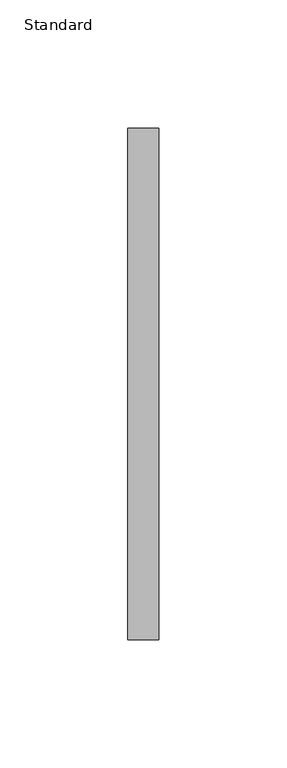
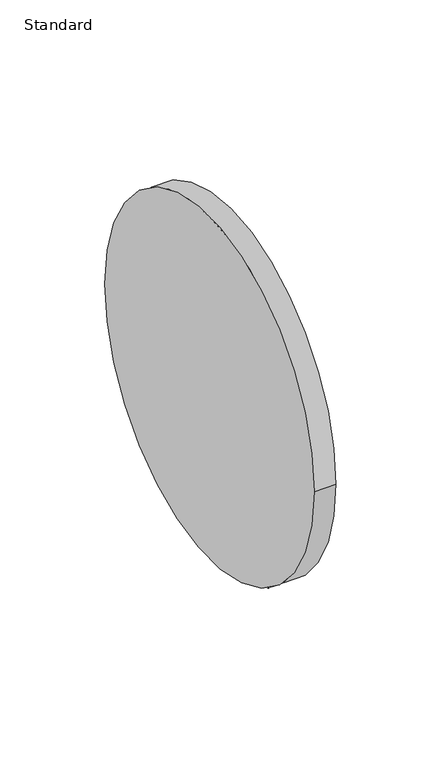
"""IFC4 building model written with IfcOpenShell, lengths in millimetres: duct fitting geometry, Extrémité arrondie : Standard."""

from ifc_helpers import new_model, si_unit, point, frame, origin, origin_2d, place, context, project, spatial, circle_curve, trimmed, segment, composite_curve, outline, extrude, source, transform, mapped, element, save


def standard_0dd78975(model_context):
    return source(origin(), model_context, "Body", "SweptSolid", [
        extrude(outline(composite_curve([segment(trimmed(circle_curve(origin_2d(), 100.0), [point((-100.0, 0.0))], [point((100.0, 0.0))], False, "CARTESIAN"), True, "CONTINUOUS"), segment(trimmed(circle_curve(origin_2d(), 100.0), [point((100.0, 0.0))], [point((-100.0, 0.0))], False, "CARTESIAN"), True, "CONTINUOUS")], self_intersect=False)), frame((0.0, 0.0, 0.0), z_axis=(1.0, 0.0, 0.0), x_axis=(0.0, 1.0, 0.0)), (0.0, 0.0, 1.0), 12.0),
    ])


if __name__ == "__main__":
    model = new_model("IFC4")
    model_context = context("Model", 3, world=origin())
    ifc_project = project(units=[si_unit("LENGTHUNIT", "METRE", prefix="MILLI")], contexts=[model_context])
    site = spatial("IfcSite", under=ifc_project)
    building = spatial("IfcBuilding", under=site)
    placement = place(None, origin())
    standard_shape = standard_0dd78975(model_context)
    element("IfcDuctFitting", 1, ObjectType="Extrémité arrondie : Standard", at=placement, inside=building, context=model_context, shape_type="MappedRepresentation", body=[
        mapped(standard_shape, transform((0.0, 0.0, 0.0), x_axis=(1.0, 0.0, 0.0), y_axis=(0.0, 1.0, 0.0), z_axis=(0.0, 0.0, 1.0))),
    ])
    save(model, "model.ifc")
